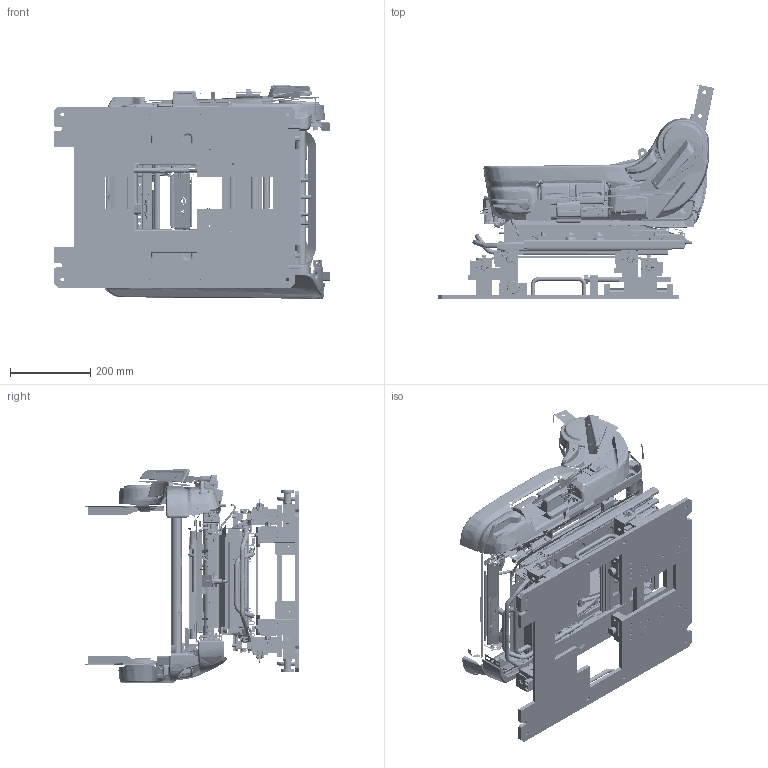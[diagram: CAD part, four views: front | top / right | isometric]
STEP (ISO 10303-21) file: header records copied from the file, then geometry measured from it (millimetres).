
FILE_DESCRIPTION(('CATIA V5 STEP Exchange'),'2;1');
FILE_NAME('C:\Users\22672\Desktop\工装定位组件S-主驾1.stp','2022-12-07T10:18:17+00:00',('none'),('none'),'CATIA Version 5 Release 21 GA (IN-10)','CATIA V5 STEP AP203','none');
FILE_SCHEMA(('CONFIG_CONTROL_DESIGN'));
Products named in the file (1): 工装定位组件S-主驾
Assembly tree (67 placements, depth 2):
  工装定位组件S-主驾
    #58  x2
    #787  x12
    #2618  x2
    #3235  x4
    #3867  x2
    #6145  x2
    #7100
    #14029  x2
    #14928  x2
    #16715
    #17424  x4
    #18563  x2
    #19115  x2
    #20694  x2
    #21309  x4
    #22195
    #48087
    #219679
    #221301
    #223193
    #224829
    #412255  x4
    #413391
    #414958
    #439497
    #747942
    #749090
    #750037  x4
    #750796
    #752175  x2
    #752934
Bounding box: 685.86 x 533.17 x 531.01 mm (x, y, z)
Volume: 3911090.1 mm3; surface area: 4385605.3 mm2
Topology: 64 solids, 1667 shells, 9777 faces, 50864 edges, 42250 vertices
Faces by surface type: plane 3690, cylinder 3546, bspline 1914, cone 379, torus 248
Entity records: 752816 total; most frequent: CARTESIAN_POINT 449740, ORIENTED_EDGE 66066, EDGE_CURVE 47566, VERTEX_POINT 40245, DIRECTION 34999, B_SPLINE_CURVE_WITH_KNOTS 24735, VECTOR 16440, LINE 16440
